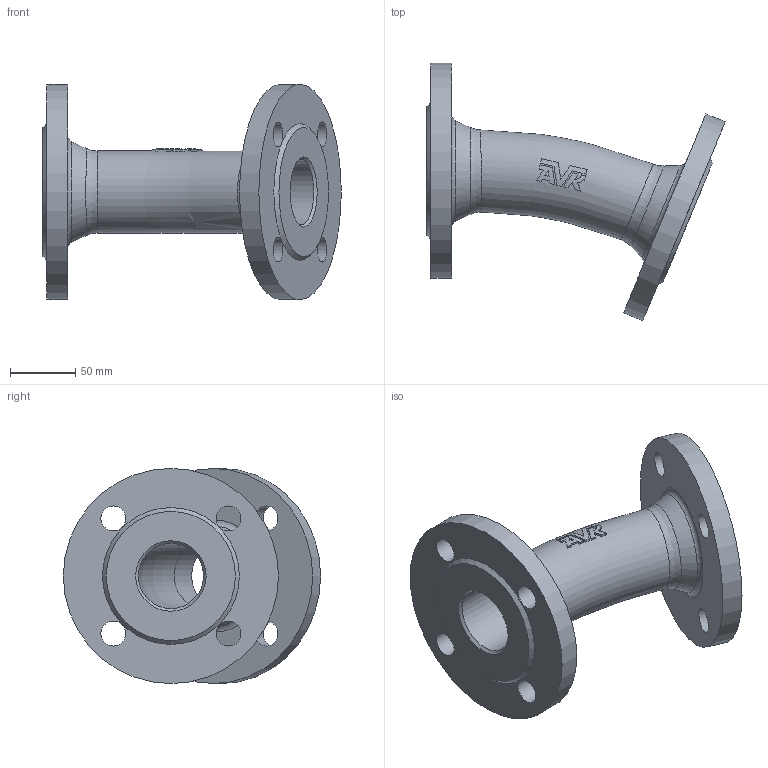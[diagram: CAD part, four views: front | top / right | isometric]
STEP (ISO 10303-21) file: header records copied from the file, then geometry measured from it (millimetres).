
FILE_DESCRIPTION (( 'STEP AP203' ), '1' );
FILE_NAME ('O_712_0210_DN50_1X_REV01.step', '2024-08-16T09:33:20', ( '' ), ( '' ), 'SwSTEP 2.0', 'SolidWorks 2022', '' );
FILE_SCHEMA (( 'CONFIG_CONTROL_DESIGN' ));
Length unit declared in the file: millimetre
Products named in the file (1): O_712_0210_DN50_1X_REV01
Bounding box: 228.88 x 197.37 x 165 mm (x, y, z)
Volume: 851357.8 mm3; surface area: 159211.9 mm2
Topology: 1 solids, 1 shells, 71 faces, 189 edges, 128 vertices
Faces by surface type: plane 41, cylinder 14, torus 8, cone 6, bspline 2
Full cylindrical faces by diameter (mm): 19 x8, 50 x2, 165 x2
Entity records: 3480 total; most frequent: CARTESIAN_POINT 1923, ORIENTED_EDGE 298, DIRECTION 245, EDGE_CURVE 149, EDGE_LOOP 121, VERTEX_POINT 112, AXIS2_PLACEMENT_3D 104, FACE_OUTER_BOUND 89
